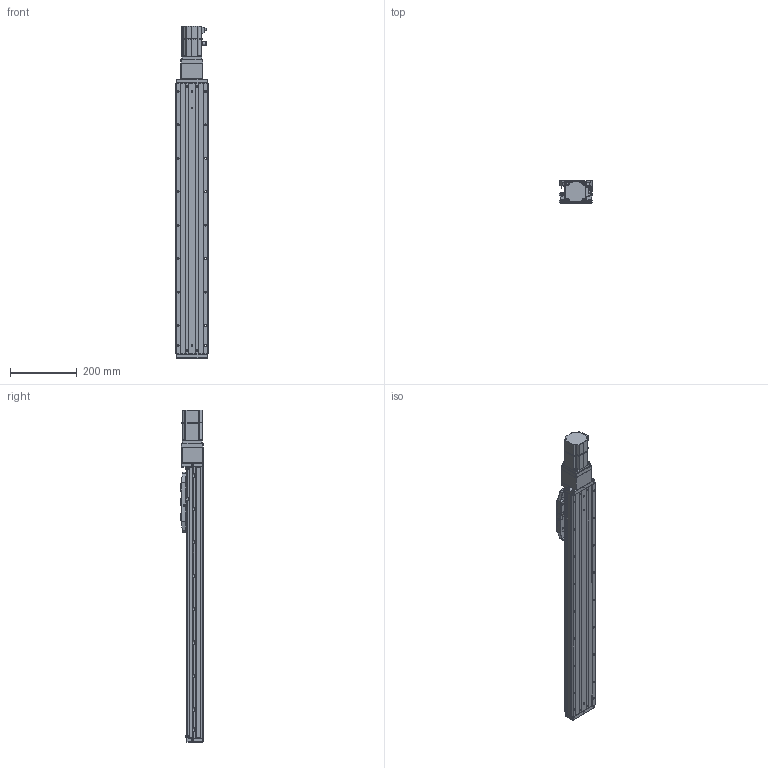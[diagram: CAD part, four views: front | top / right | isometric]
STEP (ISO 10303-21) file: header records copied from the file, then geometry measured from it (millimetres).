
FILE_DESCRIPTION (( 'STEP AP203' ), '1' );
FILE_NAME ('CTHA100-600-BC-M20-C4L.step', '2022-07-06T08:53:13', ( '微软用户' ), ( '微软中国' ), 'SwSTEP 2.0', 'SolidWorks 2020', '' );
FILE_SCHEMA (( 'CONFIG_CONTROL_DESIGN' ));
Length unit declared in the file: millimetre
Products named in the file (20): CTHA100-600-BC-M20-C4L; CTHA60-021; CTHA86-027; KTHA100-001_810; GBT77-2000 M3×3; CTHA86-006-1_CTHA86-006-2; KTHA100-004; GBT 70.1-M3℅6; GBT 70.3-M3℅6; KTHA100-005; GBT70.1 M5℅16; CTHA100-002; GB¨uT 70.2-M3¡Á5_M3¡Á6; CTHA60-016; CTHA100-031; EE_SX911P_R; _X2_4E0983F1_X0_200W_1; CTHA86-030; CTHA60-017; CTHA86-013
Assembly tree (63 placements, depth 2):
  CTHA100-600-BC-M20-C4L
    KTHA100-001_810
    KTHA100-004
    KTHA100-005
    GB¨uT 70.2-M3¡Á5_M3¡Á6  x10
    EE_SX911P_R  x3
    CTHA60-017  x3
    CTHA60-021  x2
    GBT77-2000 M3×3  x6
    GBT 70.1-M3℅6  x6
    GBT70.1 M5℅16  x14
    CTHA60-016  x2
    _X2_4E0983F1_X0_200W_1
    CTHA86-013
    CTHA86-027
    CTHA86-006-1_CTHA86-006-2
    GBT 70.3-M3℅6  x6
    CTHA100-002
    CTHA100-031
    CTHA86-030  x2
Bounding box: 98.82 x 68 x 992.5 mm (x, y, z)
Volume: 3579474.7 mm3; surface area: 623020.3 mm2
Topology: 65 solids, 65 shells, 2659 faces, 6382 edges, 3940 vertices
Faces by surface type: plane 1387, cylinder 691, cone 376, torus 112, bspline 69, sphere 24
Entity records: 46288 total; most frequent: CARTESIAN_POINT 8674, DIRECTION 7261, ORIENTED_EDGE 7036, EDGE_CURVE 3518, AXIS2_PLACEMENT_3D 2463, LINE 2335, VECTOR 2335, VERTEX_POINT 2218
